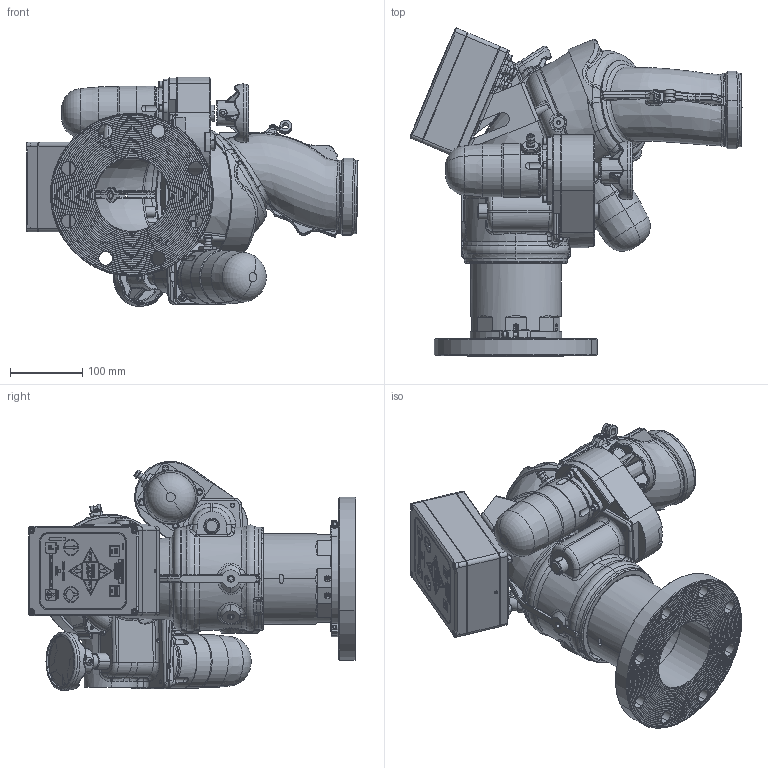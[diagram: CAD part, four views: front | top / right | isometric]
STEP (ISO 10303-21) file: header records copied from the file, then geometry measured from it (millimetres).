
FILE_DESCRIPTION (( 'STEP AP203' ), '1' );
FILE_NAME ('Y4-E21A-L_Horizontal.STEP', '2016-06-08T11:14:02', ( '' ), ( '' ), 'SwSTEP 2.0', 'SolidWorks 2015', '' );
FILE_SCHEMA (( 'CONFIG_CONTROL_DESIGN' ));
Length unit declared in the file: inch
Products named in the file (1): Y4-E21A-L_Horizontal
Bounding box: 460.06 x 454.29 x 317.62 mm (x, y, z)
Surface area: 941668.3 mm2 (no closed solid volume)
Topology: 0 solids, 246 shells, 2748 faces, 11452 edges, 8736 vertices
Faces by surface type: plane 857, cylinder 605, bspline 537, torus 429, cone 296, sphere 24
Entity records: 188619 total; most frequent: CARTESIAN_POINT 103331, ORIENTED_EDGE 16793, DIRECTION 15300, EDGE_CURVE 11433, VERTEX_POINT 8732, AXIS2_PLACEMENT_3D 5193, VECTOR 4914, LINE 4914
